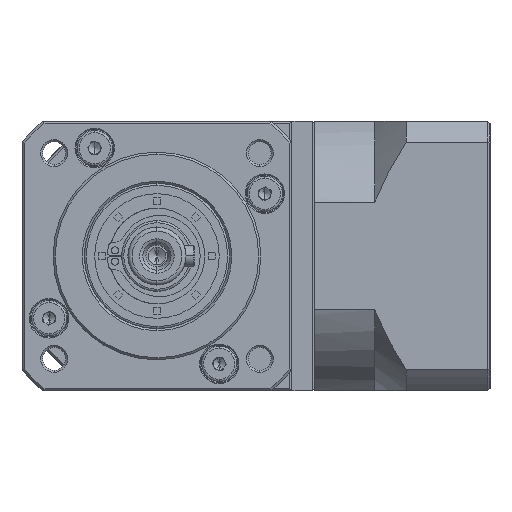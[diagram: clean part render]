
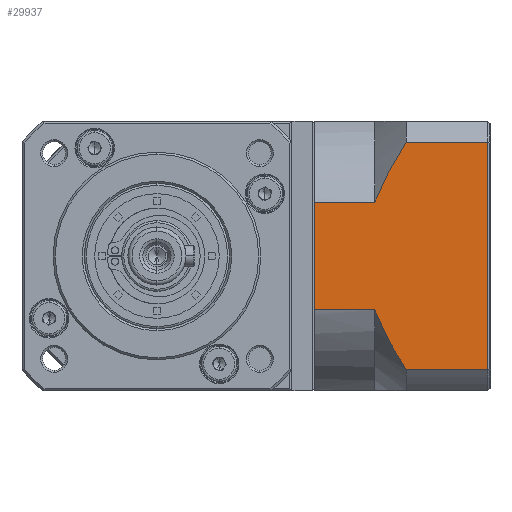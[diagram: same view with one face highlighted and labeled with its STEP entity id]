
A CAD part, left-side view. The second image highlights one B-rep face of the part: STEP entity #29937.
In plain terms, the highlighted planar face has unit normal (-1, 0, 0).
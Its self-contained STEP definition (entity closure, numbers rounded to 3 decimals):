
#1056 = LINE ( 'NONE', #47443, #99598 ) ;
#4056 = CARTESIAN_POINT ( 'NONE',  ( -45.204, -69.475, -106.901 ) ) ;
#6036 = DIRECTION ( 'NONE',  ( 0., 1., 0. ) ) ;
#7700 = VECTOR ( 'NONE', #20631, 1000. ) ;
#7856 = B_SPLINE_CURVE_WITH_KNOTS ( 'NONE', 3,
 ( #38311, #77101, #25925, #115915, #38859, #128873, #51816, #141807, #64720, #154746 ),
 .UNSPECIFIED., .F., .F.,
 ( 4, 2, 2, 2, 4 ),
 ( 0.101, 0.103, 0.105, 0.109, 0.117 ),
 .UNSPECIFIED. ) ;
#15144 = VERTEX_POINT ( 'NONE', #33891 ) ;
#17406 = VERTEX_POINT ( 'NONE', #55103 ) ;
#20631 = DIRECTION ( 'NONE',  ( 0., 0., 1. ) ) ;
#23994 = EDGE_CURVE ( 'NONE', #124902, #36503, #156520, .T. ) ;
#24745 = EDGE_CURVE ( 'NONE', #124902, #86807, #1056, .T. ) ;
#25925 = CARTESIAN_POINT ( 'NONE',  ( -45.204, -63.199, -147.421 ) ) ;
#29345 = CARTESIAN_POINT ( 'NONE',  ( -45.204, -70.208, -105.763 ) ) ;
#29886 = CARTESIAN_POINT ( 'NONE',  ( -45.204, -67.375, -110.387 ) ) ;
#29937 = ADVANCED_FACE ( 'NONE', ( #111549 ), #43637, .F. ) ;
#33891 = CARTESIAN_POINT ( 'NONE',  ( -45.204, -70.208, -160.535 ) ) ;
#35223 = ORIENTED_EDGE ( 'NONE', *, *, #160805, .F. ) ;
#36503 = VERTEX_POINT ( 'NONE', #36967 ) ;
#36726 = ORIENTED_EDGE ( 'NONE', *, *, #75474, .T. ) ;
#36967 = CARTESIAN_POINT ( 'NONE',  ( -45.204, -48.208, -146.14 ) ) ;
#37736 = DIRECTION ( 'NONE',  ( 0., -1., 0. ) ) ;
#38311 = CARTESIAN_POINT ( 'NONE',  ( -45.204, -62.708, -146.14 ) ) ;
#38859 = CARTESIAN_POINT ( 'NONE',  ( -45.204, -63.998, -149.306 ) ) ;
#42788 = CARTESIAN_POINT ( 'NONE',  ( -45.204, -64.795, -115.169 ) ) ;
#43637 = PLANE ( 'NONE',  #59061 ) ;
#44005 = EDGE_CURVE ( 'NONE', #140446, #70181, #140474, .T. ) ;
#47443 = CARTESIAN_POINT ( 'NONE',  ( -45.204, -62.708, -120.159 ) ) ;
#50140 = CARTESIAN_POINT ( 'NONE',  ( -45.204, -62.708, -105.763 ) ) ;
#51816 = CARTESIAN_POINT ( 'NONE',  ( -45.204, -65.454, -152.372 ) ) ;
#55103 = CARTESIAN_POINT ( 'NONE',  ( -45.204, -62.708, -146.14 ) ) ;
#55785 = CARTESIAN_POINT ( 'NONE',  ( -45.204, -62.708, -120.159 ) ) ;
#58364 = ORIENTED_EDGE ( 'NONE', *, *, #124204, .T. ) ;
#59061 = AXIS2_PLACEMENT_3D ( 'NONE', #160101, #83009, #6036 ) ;
#62316 = CARTESIAN_POINT ( 'NONE',  ( -45.204, -62.708, -160.535 ) ) ;
#64720 = CARTESIAN_POINT ( 'NONE',  ( -45.204, -68.746, -158.267 ) ) ;
#70181 = VERTEX_POINT ( 'NONE', #104223 ) ;
#71715 = CARTESIAN_POINT ( 'NONE',  ( -45.204, -89.908, -160.535 ) ) ;
#72050 = CARTESIAN_POINT ( 'NONE',  ( -45.204, -70.208, -105.763 ) ) ;
#75228 = DIRECTION ( 'NONE',  ( 0., 1., 0. ) ) ;
#75474 = EDGE_CURVE ( 'NONE', #17406, #15144, #7856, .T. ) ;
#76220 = EDGE_CURVE ( 'NONE', #145474, #70181, #131094, .T. ) ;
#77101 = CARTESIAN_POINT ( 'NONE',  ( -45.204, -62.946, -146.782 ) ) ;
#78790 = CARTESIAN_POINT ( 'NONE',  ( -45.204, -62.708, -146.14 ) ) ;
#83009 = DIRECTION ( 'NONE',  ( 1., 0., 0. ) ) ;
#86807 = VERTEX_POINT ( 'NONE', #149107 ) ;
#96758 = VECTOR ( 'NONE', #37736, 1000. ) ;
#99598 = VECTOR ( 'NONE', #150396, 1000. ) ;
#99919 = CARTESIAN_POINT ( 'NONE',  ( -45.204, -48.208, -165.649 ) ) ;
#104223 = CARTESIAN_POINT ( 'NONE',  ( -45.204, -89.908, -105.763 ) ) ;
#105733 = ORIENTED_EDGE ( 'NONE', *, *, #106458, .F. ) ;
#106458 = EDGE_CURVE ( 'NONE', #17406, #36503, #111892, .T. ) ;
#106910 = CARTESIAN_POINT ( 'NONE',  ( -45.204, -68.759, -108.052 ) ) ;
#110600 = CARTESIAN_POINT ( 'NONE',  ( -45.204, -89.908, -165.649 ) ) ;
#111549 = FACE_OUTER_BOUND ( 'NONE', #155363, .T. ) ;
#111892 = LINE ( 'NONE', #78790, #123968 ) ;
#115915 = CARTESIAN_POINT ( 'NONE',  ( -45.204, -63.725, -148.682 ) ) ;
#117768 = LINE ( 'NONE', #62316, #147991 ) ;
#118197 = VECTOR ( 'NONE', #140441, 1000. ) ;
#119852 = CARTESIAN_POINT ( 'NONE',  ( -45.204, -66.705, -111.573 ) ) ;
#123359 = ORIENTED_EDGE ( 'NONE', *, *, #24745, .F. ) ;
#123968 = VECTOR ( 'NONE', #132224, 1000. ) ;
#124204 = EDGE_CURVE ( 'NONE', #145474, #86807, #133780, .T. ) ;
#124902 = VERTEX_POINT ( 'NONE', #146103 ) ;
#128873 = CARTESIAN_POINT ( 'NONE',  ( -45.204, -64.849, -151.16 ) ) ;
#131094 = LINE ( 'NONE', #50140, #96758 ) ;
#132224 = DIRECTION ( 'NONE',  ( 0., 1., 0. ) ) ;
#132839 = CARTESIAN_POINT ( 'NONE',  ( -45.204, -63.65, -117.621 ) ) ;
#133780 = B_SPLINE_CURVE_WITH_KNOTS ( 'NONE', 3,
 ( #29345, #4056, #106910, #29886, #119852, #42788, #132839, #55785 ),
 .UNSPECIFIED., .F., .F.,
 ( 4, 2, 2, 4 ),
 ( 0.058, 0.062, 0.066, 0.074 ),
 .UNSPECIFIED. ) ;
#139248 = ORIENTED_EDGE ( 'NONE', *, *, #44005, .T. ) ;
#140441 = DIRECTION ( 'NONE',  ( 0., 0., -1. ) ) ;
#140446 = VERTEX_POINT ( 'NONE', #71715 ) ;
#140474 = LINE ( 'NONE', #110600, #7700 ) ;
#141807 = CARTESIAN_POINT ( 'NONE',  ( -45.204, -67.359, -155.953 ) ) ;
#145474 = VERTEX_POINT ( 'NONE', #72050 ) ;
#146103 = CARTESIAN_POINT ( 'NONE',  ( -45.204, -48.208, -120.159 ) ) ;
#147991 = VECTOR ( 'NONE', #75228, 1000. ) ;
#148262 = ORIENTED_EDGE ( 'NONE', *, *, #23994, .T. ) ;
#149107 = CARTESIAN_POINT ( 'NONE',  ( -45.204, -62.708, -120.159 ) ) ;
#150396 = DIRECTION ( 'NONE',  ( 0., -1., 0. ) ) ;
#151169 = ORIENTED_EDGE ( 'NONE', *, *, #76220, .F. ) ;
#154746 = CARTESIAN_POINT ( 'NONE',  ( -45.204, -70.208, -160.535 ) ) ;
#155363 = EDGE_LOOP ( 'NONE', ( #35223, #139248, #151169, #58364, #123359, #148262, #105733, #36726 ) ) ;
#156520 = LINE ( 'NONE', #99919, #118197 ) ;
#160101 = CARTESIAN_POINT ( 'NONE',  ( -45.204, -90.408, -165.649 ) ) ;
#160805 = EDGE_CURVE ( 'NONE', #140446, #15144, #117768, .T. ) ;
